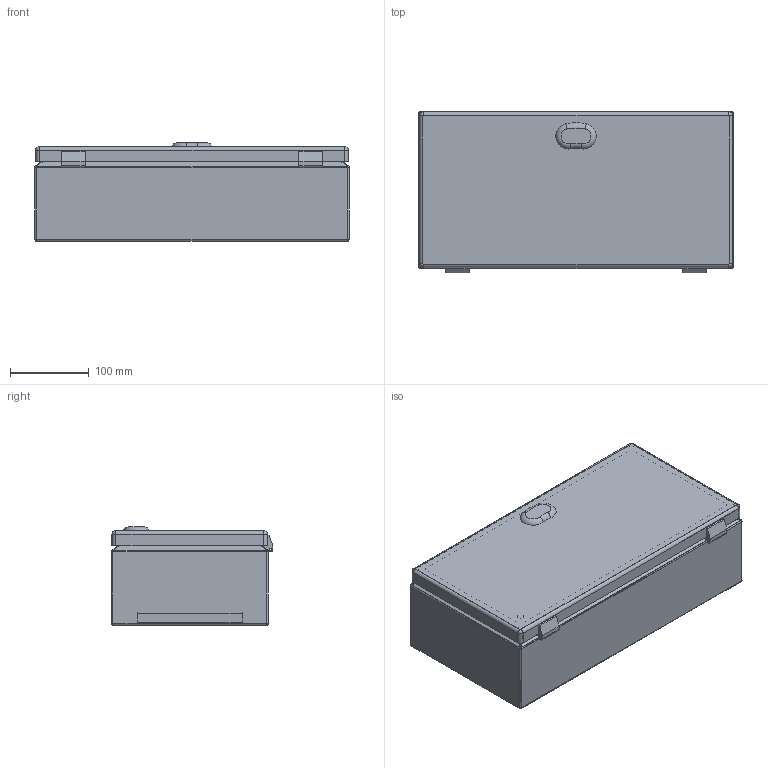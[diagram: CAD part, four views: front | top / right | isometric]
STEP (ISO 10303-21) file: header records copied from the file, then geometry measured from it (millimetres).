
FILE_DESCRIPTION (( 'STEP AP203' ), '1' );
FILE_NAME ('EG020412.P.STEP', '2023-09-01T14:57:37', ( '' ), ( '' ), 'SwSTEP 2.0', 'SolidWorks 2022', '' );
FILE_SCHEMA (( 'CONFIG_CONTROL_DESIGN' ));
Length unit declared in the file: millimetre
Products named in the file (4): EG020412.P; AR_ECOR_chiusura_std_STD; AR_EGRAN.P_involucro_0200x0400x120; AR_EGRAN.P_porta_0200x0400
Assembly tree (3 placements, depth 2):
  EG020412.P
    AR_EGRAN.P_involucro_0200x0400x120
    AR_EGRAN.P_porta_0200x0400
    AR_ECOR_chiusura_std_STD
Bounding box: 400 x 205.6 x 125 mm (x, y, z)
Volume: 456285.4 mm3; surface area: 671609.3 mm2
Topology: 3 solids, 3 shells, 265 faces, 661 edges, 392 vertices
Faces by surface type: cylinder 127, plane 94, torus 20, sphere 16, bspline 8
Full cylindrical faces by diameter (mm): 2.5 x2, 4.2 x14, 4.5 x2, 5.2 x4, 5.5 x1, 6 x1, 8 x1, 10.2 x4
Entity records: 8334 total; most frequent: CARTESIAN_POINT 1752, DIRECTION 1350, ORIENTED_EDGE 1206, EDGE_CURVE 603, AXIS2_PLACEMENT_3D 517, VERTEX_POINT 379, EDGE_LOOP 356, VECTOR 316
